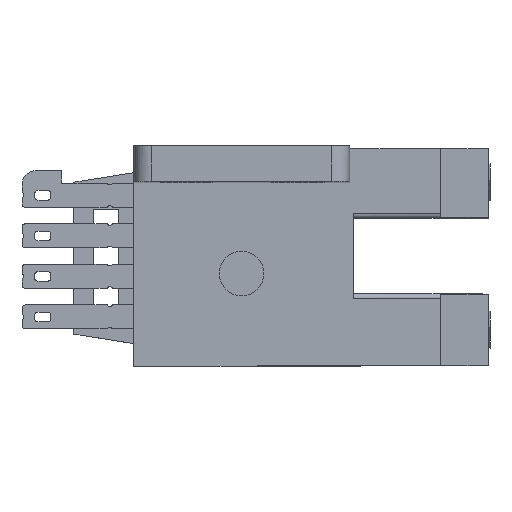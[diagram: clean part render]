
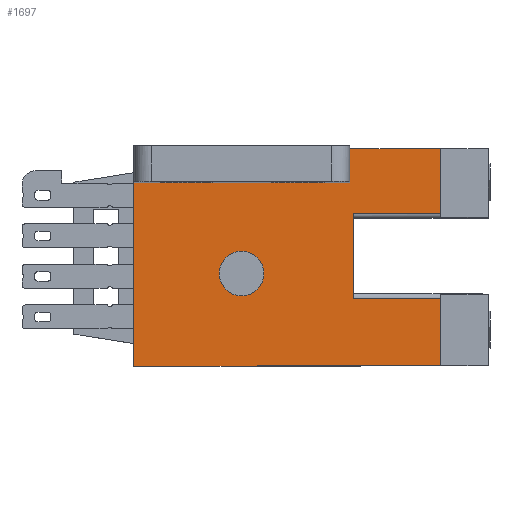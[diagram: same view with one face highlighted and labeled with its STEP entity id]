
A CAD part, top view. The second image highlights one B-rep face of the part: STEP entity #1697.
In plain terms, the highlighted planar face has unit normal (0, 0, 1).
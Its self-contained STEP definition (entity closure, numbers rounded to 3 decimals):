
#229=DIRECTION('',(-1.,0.003,0.));
#230=VECTOR('',#229,5.45);
#231=CARTESIAN_POINT('',(19.2,17.332,6.484));
#232=LINE('',#231,#230);
#233=DIRECTION('',(0.,1.,0.));
#234=VECTOR('',#233,4.199);
#235=CARTESIAN_POINT('',(19.2,13.134,6.484));
#236=LINE('',#235,#234);
#237=DIRECTION('',(1.,0.002,0.));
#238=VECTOR('',#237,19.2);
#239=CARTESIAN_POINT('',(0.,13.1,
6.484));
#240=LINE('',#239,#238);
#241=DIRECTION('',(-1.,0.,0.));
#242=VECTOR('',#241,13.52);
#243=CARTESIAN_POINT('',(13.52,24.6,6.484));
#244=LINE('',#243,#242);
#245=DIRECTION('',(-1.,0.,0.));
#246=VECTOR('',#245,5.68);
#247=CARTESIAN_POINT('',(19.2,26.73,6.484));
#248=LINE('',#247,#246);
#249=DIRECTION('',(1.,0.003,0.));
#250=VECTOR('',#249,5.45);
#251=CARTESIAN_POINT('',(13.75,22.649,6.484));
#252=LINE('',#251,#250);
#253=DIRECTION('',(0.,1.,0.));
#254=VECTOR('',#253,5.297);
#255=CARTESIAN_POINT('',(13.75,17.351,6.484));
#256=LINE('',#255,#254);
#257=CARTESIAN_POINT('',(6.75,18.9,6.484));
#258=DIRECTION('',(0.,0.,-1.));
#259=DIRECTION('',(0.,1.,0.));
#260=AXIS2_PLACEMENT_3D('',#257,#258,#259);
#262=CARTESIAN_POINT('',(6.75,18.9,6.484));
#263=DIRECTION('',(0.,0.,-1.));
#264=DIRECTION('',(0.,-1.,0.));
#265=AXIS2_PLACEMENT_3D('',#262,#263,#264);
#299=DIRECTION('',(0.,1.,0.));
#300=VECTOR('',#299,11.5);
#301=CARTESIAN_POINT('',(0.,13.1,
6.484));
#302=LINE('',#301,#300);
#709=DIRECTION('',(0.,1.,0.));
#710=VECTOR('',#709,2.13);
#711=CARTESIAN_POINT('',(13.52,24.6,6.484));
#712=LINE('',#711,#710);
#913=DIRECTION('',(0.,-1.,0.));
#914=VECTOR('',#913,4.062);
#915=CARTESIAN_POINT('',(19.2,26.73,6.484));
#916=LINE('',#915,#914);
#1095=CARTESIAN_POINT('',(6.75,20.3,6.484));
#1096=CARTESIAN_POINT('',(6.75,17.5,6.484));
#1097=VERTEX_POINT('',#1095);
#1098=VERTEX_POINT('',#1096);
#1099=CARTESIAN_POINT('',(19.2,17.332,6.484));
#1100=CARTESIAN_POINT('',(13.75,17.351,6.484));
#1101=VERTEX_POINT('',#1099);
#1102=VERTEX_POINT('',#1100);
#1103=CARTESIAN_POINT('',(13.75,22.649,6.484));
#1104=VERTEX_POINT('',#1103);
#1105=CARTESIAN_POINT('',(19.2,22.668,6.484));
#1106=VERTEX_POINT('',#1105);
#1107=CARTESIAN_POINT('',(19.2,26.73,6.484));
#1108=VERTEX_POINT('',#1107);
#1109=CARTESIAN_POINT('',(13.52,26.73,6.484));
#1110=VERTEX_POINT('',#1109);
#1111=CARTESIAN_POINT('',(13.52,24.6,6.484));
#1112=VERTEX_POINT('',#1111);
#1113=CARTESIAN_POINT('',(0.,24.6,
6.484));
#1114=VERTEX_POINT('',#1113);
#1115=CARTESIAN_POINT('',(0.,13.1,
6.484));
#1116=VERTEX_POINT('',#1115);
#1117=CARTESIAN_POINT('',(19.2,13.134,6.484));
#1118=VERTEX_POINT('',#1117);
#1669=CARTESIAN_POINT('',(0.,20.,6.484));
#1670=DIRECTION('',(0.,0.,-1.));
#1671=DIRECTION('',(0.,1.,0.));
#1672=AXIS2_PLACEMENT_3D('',#1669,#1670,#1671);
#1673=PLANE('',#1672);
#1674=ORIENTED_EDGE('',*,*,#1467,.F.);
#1675=ORIENTED_EDGE('',*,*,#1488,.F.);
#1677=ORIENTED_EDGE('',*,*,#1676,.F.);
#1679=ORIENTED_EDGE('',*,*,#1678,.T.);
#1681=ORIENTED_EDGE('',*,*,#1680,.F.);
#1683=ORIENTED_EDGE('',*,*,#1682,.T.);
#1684=ORIENTED_EDGE('',*,*,#1654,.F.);
#1686=ORIENTED_EDGE('',*,*,#1685,.T.);
#1687=ORIENTED_EDGE('',*,*,#1583,.F.);
#1688=ORIENTED_EDGE('',*,*,#1447,.F.);
#1689=EDGE_LOOP('',(#1674,#1675,#1677,#1679,#1681,#1683,#1684,#1686,#1687,
#1688));
#1690=FACE_OUTER_BOUND('',#1689,.F.);
#1692=ORIENTED_EDGE('',*,*,#1691,.F.);
#1694=ORIENTED_EDGE('',*,*,#1693,.F.);
#1695=EDGE_LOOP('',(#1692,#1694));
#1696=FACE_BOUND('',#1695,.F.);
#1697=ADVANCED_FACE('',(#1690,#1696),#1673,.F.);
#261=CIRCLE('',#260,1.4);
#266=CIRCLE('',#265,1.4);
#1447=EDGE_CURVE('',#1102,#1104,#256,.T.);
#1467=EDGE_CURVE('',#1101,#1102,#232,.T.);
#1488=EDGE_CURVE('',#1118,#1101,#236,.T.);
#1583=EDGE_CURVE('',#1104,#1106,#252,.T.);
#1654=EDGE_CURVE('',#1108,#1110,#248,.T.);
#1676=EDGE_CURVE('',#1116,#1118,#240,.T.);
#1678=EDGE_CURVE('',#1116,#1114,#302,.T.);
#1680=EDGE_CURVE('',#1112,#1114,#244,.T.);
#1682=EDGE_CURVE('',#1112,#1110,#712,.T.);
#1685=EDGE_CURVE('',#1108,#1106,#916,.T.);
#1691=EDGE_CURVE('',#1097,#1098,#261,.T.);
#1693=EDGE_CURVE('',#1098,#1097,#266,.T.);
